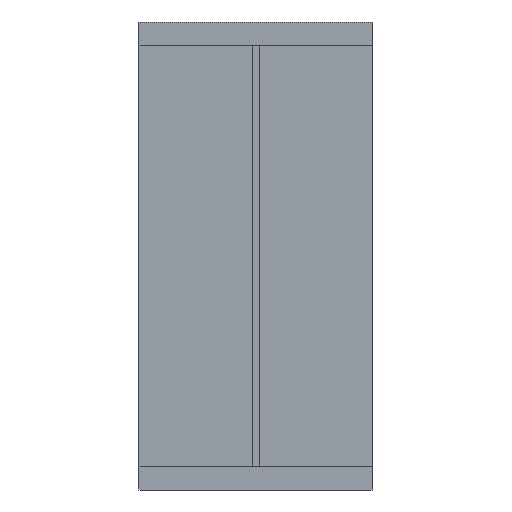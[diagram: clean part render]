
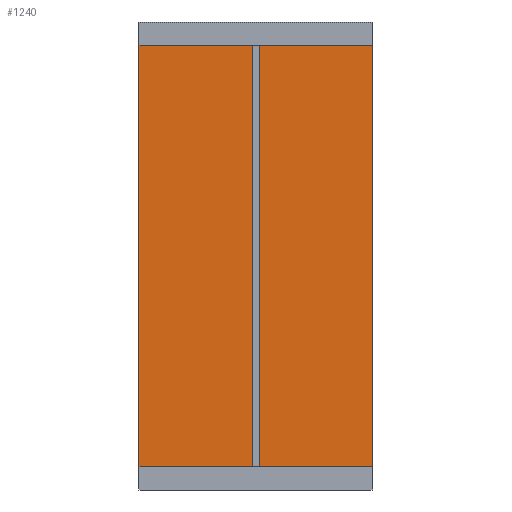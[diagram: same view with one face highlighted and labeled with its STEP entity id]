
A CAD part, front view. The second image highlights one B-rep face of the part: STEP entity #1240.
In plain terms, the highlighted planar face has unit normal (0, -1, 0).
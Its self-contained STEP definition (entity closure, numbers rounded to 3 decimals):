
#23 = EDGE_CURVE ( 'NONE', #87, #875, #1138, .T. ) ;
#31 = FACE_OUTER_BOUND ( 'NONE', #1395, .T. ) ;
#40 = LINE ( 'NONE', #496, #982 ) ;
#73 = VERTEX_POINT ( 'NONE', #109 ) ;
#83 = ORIENTED_EDGE ( 'NONE', *, *, #143, .F. ) ;
#87 = VERTEX_POINT ( 'NONE', #780 ) ;
#109 = CARTESIAN_POINT ( 'NONE',  ( 490., 520., 2000. ) ) ;
#116 = CARTESIAN_POINT ( 'NONE',  ( 500., 520., 100. ) ) ;
#118 = DIRECTION ( 'NONE',  ( 0., 0., -1. ) ) ;
#119 = LINE ( 'NONE', #647, #134 ) ;
#134 = VECTOR ( 'NONE', #215, 1000. ) ;
#135 = LINE ( 'NONE', #926, #954 ) ;
#143 = EDGE_CURVE ( 'NONE', #393, #315, #40, .T. ) ;
#192 = ORIENTED_EDGE ( 'NONE', *, *, #313, .F. ) ;
#195 = DIRECTION ( 'NONE',  ( 0., 0., 1. ) ) ;
#205 = LINE ( 'NONE', #1484, #667 ) ;
#211 = CARTESIAN_POINT ( 'NONE',  ( 490., 520., 100. ) ) ;
#215 = DIRECTION ( 'NONE',  ( 0., 0., 1. ) ) ;
#238 = CARTESIAN_POINT ( 'NONE',  ( 490., 520., 1900. ) ) ;
#242 = CARTESIAN_POINT ( 'NONE',  ( 490., 520., 100. ) ) ;
#246 = CARTESIAN_POINT ( 'NONE',  ( 490., 520., 2000. ) ) ;
#269 = DIRECTION ( 'NONE',  ( 0., 0., 1. ) ) ;
#283 = CARTESIAN_POINT ( 'NONE',  ( -500., 520., 100. ) ) ;
#313 = EDGE_CURVE ( 'NONE', #722, #87, #205, .T. ) ;
#314 = DIRECTION ( 'NONE',  ( 0., -1., 0. ) ) ;
#315 = VERTEX_POINT ( 'NONE', #1116 ) ;
#345 = LINE ( 'NONE', #1009, #986 ) ;
#353 = LINE ( 'NONE', #238, #572 ) ;
#356 = ORIENTED_EDGE ( 'NONE', *, *, #1373, .F. ) ;
#357 = LINE ( 'NONE', #242, #946 ) ;
#371 = EDGE_CURVE ( 'NONE', #1452, #1454, #345, .T. ) ;
#393 = VERTEX_POINT ( 'NONE', #670 ) ;
#418 = CARTESIAN_POINT ( 'NONE',  ( -490., 520., 2000. ) ) ;
#426 = EDGE_CURVE ( 'NONE', #1392, #540, #119, .T. ) ;
#466 = LINE ( 'NONE', #246, #710 ) ;
#483 = CARTESIAN_POINT ( 'NONE',  ( -490., 520., 100. ) ) ;
#487 = EDGE_CURVE ( 'NONE', #1454, #1392, #135, .T. ) ;
#496 = CARTESIAN_POINT ( 'NONE',  ( -490., 520., 0. ) ) ;
#536 = LINE ( 'NONE', #418, #812 ) ;
#539 = ORIENTED_EDGE ( 'NONE', *, *, #783, .F. ) ;
#540 = VERTEX_POINT ( 'NONE', #600 ) ;
#550 = VECTOR ( 'NONE', #269, 1000. ) ;
#572 = VECTOR ( 'NONE', #1385, 1000. ) ;
#577 = DIRECTION ( 'NONE',  ( -1., 0., 0. ) ) ;
#600 = CARTESIAN_POINT ( 'NONE',  ( -490., 520., 2000. ) ) ;
#602 = DIRECTION ( 'NONE',  ( -1., 0., 0. ) ) ;
#630 = EDGE_CURVE ( 'NONE', #1191, #1452, #702, .T. ) ;
#647 = CARTESIAN_POINT ( 'NONE',  ( -490., 520., 2000. ) ) ;
#667 = VECTOR ( 'NONE', #1371, 1000. ) ;
#670 = CARTESIAN_POINT ( 'NONE',  ( 490., 520., 0. ) ) ;
#676 = CARTESIAN_POINT ( 'NONE',  ( -490., 520., 1900. ) ) ;
#702 = LINE ( 'NONE', #283, #853 ) ;
#710 = VECTOR ( 'NONE', #1011, 1000. ) ;
#719 = DIRECTION ( 'NONE',  ( -1., 0., 0. ) ) ;
#720 = LINE ( 'NONE', #483, #550 ) ;
#722 = VERTEX_POINT ( 'NONE', #1383 ) ;
#733 = ORIENTED_EDGE ( 'NONE', *, *, #1458, .F. ) ;
#768 = CARTESIAN_POINT ( 'NONE',  ( 0., 520., 0. ) ) ;
#780 = CARTESIAN_POINT ( 'NONE',  ( 500., 520., 100. ) ) ;
#783 = EDGE_CURVE ( 'NONE', #875, #393, #357, .T. ) ;
#812 = VECTOR ( 'NONE', #1351, 1000. ) ;
#828 = ORIENTED_EDGE ( 'NONE', *, *, #1179, .F. ) ;
#853 = VECTOR ( 'NONE', #719, 1000. ) ;
#875 = VERTEX_POINT ( 'NONE', #211 ) ;
#926 = CARTESIAN_POINT ( 'NONE',  ( -490., 520., 1900. ) ) ;
#933 = ORIENTED_EDGE ( 'NONE', *, *, #1059, .F. ) ;
#946 = VECTOR ( 'NONE', #118, 1000. ) ;
#954 = VECTOR ( 'NONE', #1160, 1000. ) ;
#976 = CARTESIAN_POINT ( 'NONE',  ( -500., 520., 100. ) ) ;
#982 = VECTOR ( 'NONE', #602, 1000. ) ;
#986 = VECTOR ( 'NONE', #195, 1000. ) ;
#1009 = CARTESIAN_POINT ( 'NONE',  ( -500., 520., 1900. ) ) ;
#1010 = ORIENTED_EDGE ( 'NONE', *, *, #487, .F. ) ;
#1011 = DIRECTION ( 'NONE',  ( 0., 0., -1. ) ) ;
#1023 = CARTESIAN_POINT ( 'NONE',  ( -490., 520., 100. ) ) ;
#1059 = EDGE_CURVE ( 'NONE', #315, #1191, #720, .T. ) ;
#1061 = ORIENTED_EDGE ( 'NONE', *, *, #630, .F. ) ;
#1064 = CARTESIAN_POINT ( 'NONE',  ( 490., 520., 1900. ) ) ;
#1067 = PLANE ( 'NONE',  #1259 ) ;
#1116 = CARTESIAN_POINT ( 'NONE',  ( -490., 520., 0. ) ) ;
#1138 = LINE ( 'NONE', #116, #1281 ) ;
#1160 = DIRECTION ( 'NONE',  ( 1., 0., 0. ) ) ;
#1179 = EDGE_CURVE ( 'NONE', #73, #1345, #466, .T. ) ;
#1191 = VERTEX_POINT ( 'NONE', #1023 ) ;
#1240 = ADVANCED_FACE ( 'NONE', ( #31 ), #1067, .T. ) ;
#1259 = AXIS2_PLACEMENT_3D ( 'NONE', #768, #314, #1451 ) ;
#1281 = VECTOR ( 'NONE', #577, 1000. ) ;
#1327 = ORIENTED_EDGE ( 'NONE', *, *, #371, .F. ) ;
#1345 = VERTEX_POINT ( 'NONE', #1064 ) ;
#1351 = DIRECTION ( 'NONE',  ( 1., 0., 0. ) ) ;
#1371 = DIRECTION ( 'NONE',  ( 0., 0., -1. ) ) ;
#1373 = EDGE_CURVE ( 'NONE', #540, #73, #536, .T. ) ;
#1383 = CARTESIAN_POINT ( 'NONE',  ( 500., 520., 1900. ) ) ;
#1385 = DIRECTION ( 'NONE',  ( 1., 0., 0. ) ) ;
#1392 = VERTEX_POINT ( 'NONE', #676 ) ;
#1395 = EDGE_LOOP ( 'NONE', ( #1327, #1061, #933, #83, #539, #1445, #192, #733, #828, #356, #1481, #1010 ) ) ;
#1445 = ORIENTED_EDGE ( 'NONE', *, *, #23, .F. ) ;
#1451 = DIRECTION ( 'NONE',  ( 0., 0., -1. ) ) ;
#1452 = VERTEX_POINT ( 'NONE', #976 ) ;
#1454 = VERTEX_POINT ( 'NONE', #1460 ) ;
#1458 = EDGE_CURVE ( 'NONE', #1345, #722, #353, .T. ) ;
#1460 = CARTESIAN_POINT ( 'NONE',  ( -500., 520., 1900. ) ) ;
#1481 = ORIENTED_EDGE ( 'NONE', *, *, #426, .F. ) ;
#1484 = CARTESIAN_POINT ( 'NONE',  ( 500., 520., 1900. ) ) ;
